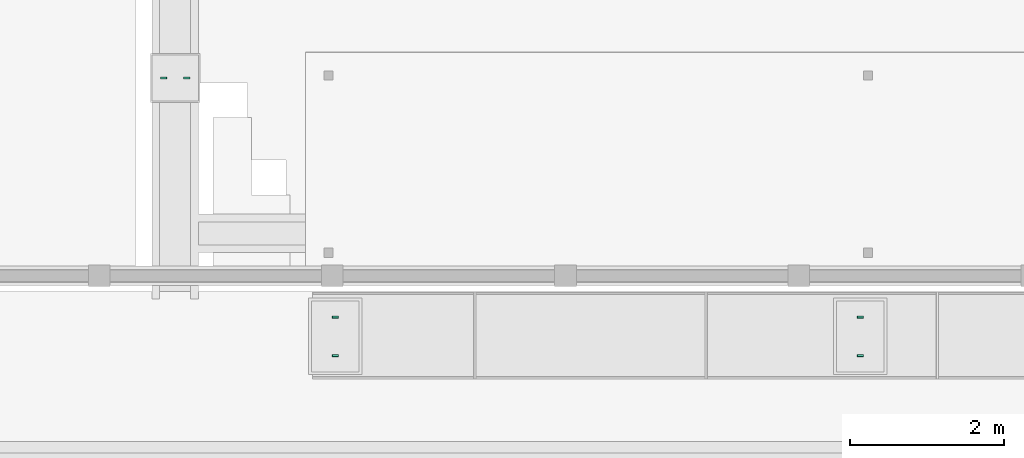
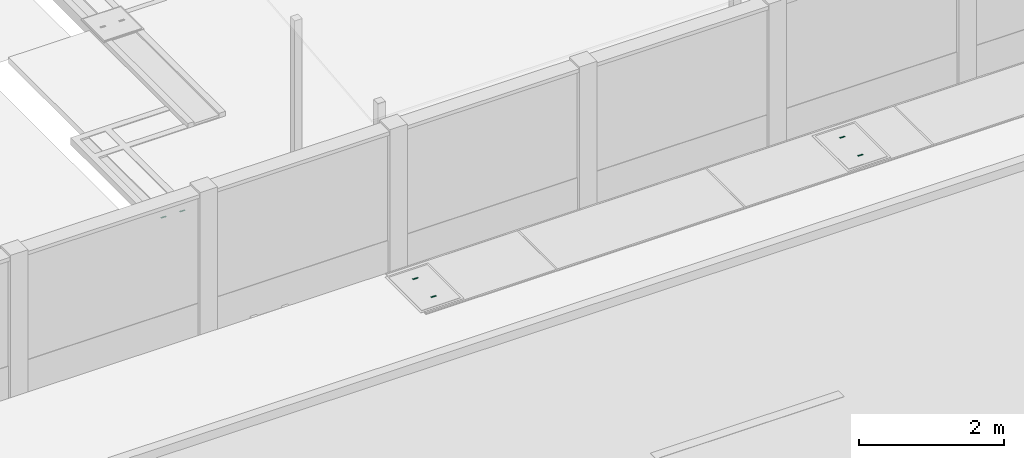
# One storey, part 131 of 177: 6 distribution chamber elements.
"""IFC4 building model written with IfcOpenShell, lengths in metres."""

from ifc_helpers import new_model, si_unit, origin, origin_with_axes, place, context, subcontext, project, spatial, triangles, element, save


model = new_model("IFC4")

# Units and contexts
model_context = context("Model", 3, precision=1e-05, world=origin_with_axes())
body_context = subcontext(model_context, "Body", "Model", "MODEL_VIEW")
ifc_project = project(units=[si_unit("LENGTHUNIT", "METRE"), si_unit("AREAUNIT", "SQUARE_METRE"), si_unit("VOLUMEUNIT", "CUBIC_METRE"), si_unit("PLANEANGLEUNIT", "RADIAN")], contexts=[model_context])

# Site, building, storey
site_placement = place(None, origin_with_axes())
site = spatial("IfcSite", under=ifc_project, at=site_placement, Name="Predio Los Mangos - Morales, San Martín", CompositionType="ELEMENT")
building_placement = place(site_placement, origin())
building = spatial("IfcBuilding", under=site, at=building_placement, Name="Hogar de Refugio Temporal", CompositionType="ELEMENT")
storey_placement = place(building_placement, origin())
storey = spatial("IfcBuildingStorey", under=building, at=storey_placement, Name="NIVEL 1 (NPT +0.00)", CompositionType="ELEMENT", Elevation=0.0)

# Distribution chamber elements
distribution_chamber_element_1_placement = place(storey_placement, origin())
element("IfcDistributionChamberElement", 1, at=distribution_chamber_element_1_placement, inside=storey, Name="tapa_insp_asa", ObjectType="Tapa de inspección", PredefinedType="INSPECTIONCHAMBER", context=body_context, shape_type="Tessellation", body=[
    triangles([(10.923, 20.555, 0.104), (11.003, 20.555, 0.104), (11.003, 20.579, 0.104), (10.923, 20.579, 0.104), (10.923, 20.555, 0.108), (11.003, 20.555, 0.108), (11.003, 20.579, 0.108), (10.923, 20.579, 0.108)], [[1, 4, 3], [1, 3, 2], [5, 6, 7], [5, 7, 8], [1, 2, 6], [1, 6, 5], [2, 3, 7], [2, 7, 6], [3, 4, 8], [3, 8, 7], [4, 1, 5], [4, 5, 8]]),
])
distribution_chamber_element_2_placement = place(storey_placement, origin())
element("IfcDistributionChamberElement", 2, at=distribution_chamber_element_2_placement, inside=storey, Name="tapa_insp_asa", ObjectType="Tapa de inspección", PredefinedType="INSPECTIONCHAMBER", context=body_context, shape_type="Tessellation", body=[
    triangles([(11.223, 20.555, 0.104), (11.303, 20.555, 0.104), (11.303, 20.579, 0.104), (11.223, 20.579, 0.104), (11.223, 20.555, 0.108), (11.303, 20.555, 0.108), (11.303, 20.579, 0.108), (11.223, 20.579, 0.108)], [[1, 4, 3], [1, 3, 2], [5, 6, 7], [5, 7, 8], [1, 2, 6], [1, 6, 5], [2, 3, 7], [2, 7, 6], [3, 4, 8], [3, 8, 7], [4, 1, 5], [4, 5, 8]]),
])
distribution_chamber_element_3_placement = place(storey_placement, origin())
element("IfcDistributionChamberElement", 3, at=distribution_chamber_element_3_placement, inside=storey, Name="tapa_asa", ObjectType="Tapa ciega de registro del colector", PredefinedType="INSPECTIONCHAMBER", context=body_context, shape_type="Tessellation", body=[
    triangles([(19.96, 16.953, 0.168), (20.04, 16.953, 0.168), (20.04, 16.977, 0.168), (19.96, 16.977, 0.168), (19.96, 16.953, 0.172), (20.04, 16.953, 0.172), (20.04, 16.977, 0.172), (19.96, 16.977, 0.172)], [[1, 4, 3], [1, 3, 2], [5, 6, 7], [5, 7, 8], [1, 2, 6], [1, 6, 5], [2, 3, 7], [2, 7, 6], [3, 4, 8], [3, 8, 7], [4, 1, 5], [4, 5, 8]]),
])
distribution_chamber_element_4_placement = place(storey_placement, origin())
element("IfcDistributionChamberElement", 4, at=distribution_chamber_element_4_placement, inside=storey, Name="tapa_asa", ObjectType="Tapa ciega de registro del colector", PredefinedType="INSPECTIONCHAMBER", context=body_context, shape_type="Tessellation", body=[
    triangles([(19.96, 17.453, 0.168), (20.04, 17.453, 0.168), (20.04, 17.477, 0.168), (19.96, 17.477, 0.168), (19.96, 17.453, 0.172), (20.04, 17.453, 0.172), (20.04, 17.477, 0.172), (19.96, 17.477, 0.172)], [[1, 4, 3], [1, 3, 2], [5, 6, 7], [5, 7, 8], [1, 2, 6], [1, 6, 5], [2, 3, 7], [2, 7, 6], [3, 4, 8], [3, 8, 7], [4, 1, 5], [4, 5, 8]]),
])
distribution_chamber_element_5_placement = place(storey_placement, origin())
element("IfcDistributionChamberElement", 5, at=distribution_chamber_element_5_placement, inside=storey, Name="tapa_asa", ObjectType="Tapa ciega de registro del colector", PredefinedType="INSPECTIONCHAMBER", context=body_context, shape_type="Tessellation", body=[
    triangles([(13.15, 16.953, 0.168), (13.23, 16.953, 0.168), (13.23, 16.977, 0.168), (13.15, 16.977, 0.168), (13.15, 16.953, 0.172), (13.23, 16.953, 0.172), (13.23, 16.977, 0.172), (13.15, 16.977, 0.172)], [[1, 4, 3], [1, 3, 2], [5, 6, 7], [5, 7, 8], [1, 2, 6], [1, 6, 5], [2, 3, 7], [2, 7, 6], [3, 4, 8], [3, 8, 7], [4, 1, 5], [4, 5, 8]]),
])
distribution_chamber_element_6_placement = place(storey_placement, origin())
element("IfcDistributionChamberElement", 6, at=distribution_chamber_element_6_placement, inside=storey, Name="tapa_asa", ObjectType="Tapa ciega de registro del colector", PredefinedType="INSPECTIONCHAMBER", context=body_context, shape_type="Tessellation", body=[
    triangles([(13.15, 17.453, 0.168), (13.23, 17.453, 0.168), (13.23, 17.477, 0.168), (13.15, 17.477, 0.168), (13.15, 17.453, 0.172), (13.23, 17.453, 0.172), (13.23, 17.477, 0.172), (13.15, 17.477, 0.172)], [[1, 4, 3], [1, 3, 2], [5, 6, 7], [5, 7, 8], [1, 2, 6], [1, 6, 5], [2, 3, 7], [2, 7, 6], [3, 4, 8], [3, 8, 7], [4, 1, 5], [4, 5, 8]]),
])

save(model, "model.ifc")
